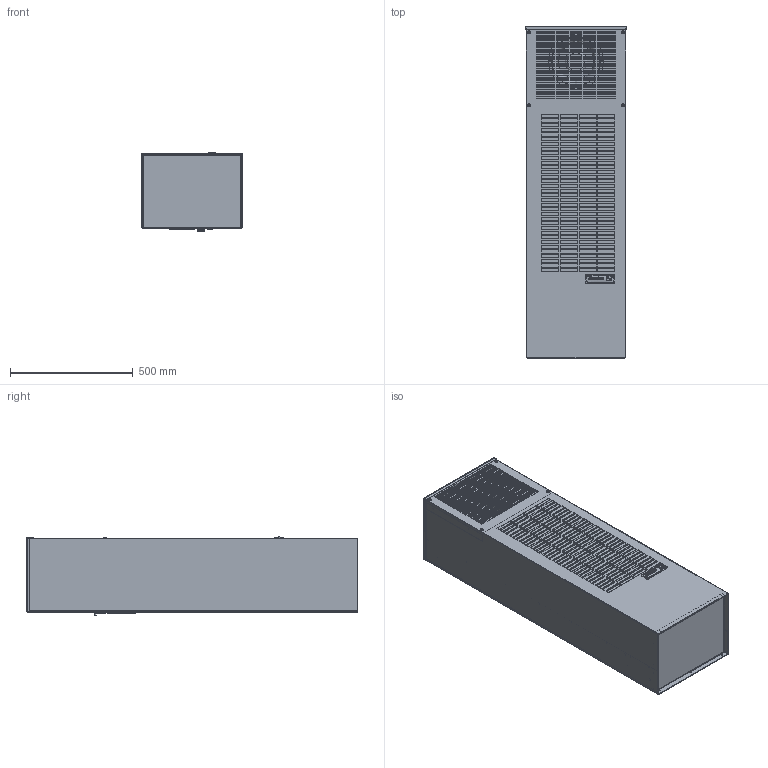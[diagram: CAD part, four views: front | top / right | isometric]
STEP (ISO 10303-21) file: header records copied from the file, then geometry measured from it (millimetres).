
FILE_DESCRIPTION (( 'STEP AP214' ), '1' );
FILE_NAME ('DTS 32x5 InSide.step', '2019-12-05T14:11:35', ( '' ), ( '' ), 'SwSTEP 2.0', 'SolidWorks 2018', '' );
FILE_SCHEMA (( 'AUTOMOTIVE_DESIGN' ));
Length unit declared in the file: millimetre
Products named in the file (1): DTS 32x5 InSide
Bounding box: 409.09 x 1351.71 x 317.94 mm (x, y, z)
Volume: 19995356.1 mm3; surface area: 8997509.4 mm2
Topology: 25 solids, 25 shells, 3876 faces, 10609 edges, 6939 vertices
Faces by surface type: plane 2457, cylinder 1083, bspline 288, cone 36, torus 8, sphere 4
Entity records: 232504 total; most frequent: CARTESIAN_POINT 90404, ORIENTED_EDGE 21178, DIRECTION 19043, EDGE_CURVE 10589, LINE 7413, VECTOR 7413, VERTEX_POINT 6939, AXIS2_PLACEMENT_3D 5815
